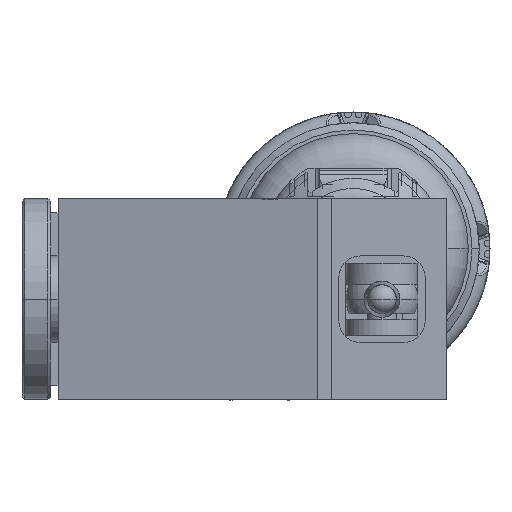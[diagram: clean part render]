
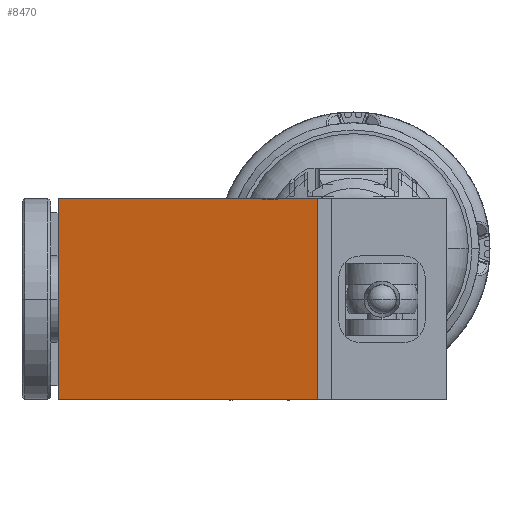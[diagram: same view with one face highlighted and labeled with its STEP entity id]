
A CAD part, left-side view. The second image highlights one B-rep face of the part: STEP entity #8470.
In plain terms, the highlighted planar face has unit normal (-0.976, 0.217, 0).
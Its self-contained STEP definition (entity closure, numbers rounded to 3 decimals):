
#3140=CARTESIAN_POINT('',(4.,27.,-13.));
#3150=VERTEX_POINT('',#3140);
#3180=CARTESIAN_POINT('',(2.832,21.744,-13.));
#3190=DIRECTION('',(-0.217,-0.976,0.));
#3200=VECTOR('',#3190,1.);
#3210=LINE('',#3180,#3200);
#3220=CARTESIAN_POINT('',(0.,9.,-13.));
#3230=VERTEX_POINT('',#3220);
#3240=EDGE_CURVE('',#3150,#3230,#3210,.T.);
#8100=CARTESIAN_POINT('',(4.,27.,1.));
#8110=VERTEX_POINT('',#8100);
#8140=CARTESIAN_POINT('',(4.,27.,0.));
#8150=DIRECTION('',(0.,0.,-1.));
#8160=VECTOR('',#8150,1.);
#8170=LINE('',#8140,#8160);
#8180=EDGE_CURVE('',#8110,#3150,#8170,.T.);
#8240=CARTESIAN_POINT('',(0.,9.,0.));
#8250=DIRECTION('',(0.976,-0.217,0.));
#8260=DIRECTION('',(-0.217,-0.976,0.));
#8270=AXIS2_PLACEMENT_3D('',#8240,#8250,#8260);
#8280=PLANE('',#8270);
#8290=CARTESIAN_POINT('',(2.832,21.744,
1.));
#8300=DIRECTION('',(-0.217,-0.976,0.));
#8310=VECTOR('',#8300,1.);
#8320=LINE('',#8290,#8310);
#8330=CARTESIAN_POINT('',(0.,9.,
1.));
#8340=VERTEX_POINT('',#8330);
#8350=EDGE_CURVE('',#8110,#8340,#8320,.T.);
#8360=ORIENTED_EDGE('',*,*,#8350,.F.);
#8370=CARTESIAN_POINT('',(0.,9.,0.));
#8380=DIRECTION('',(0.,0.,-1.));
#8390=VECTOR('',#8380,1.);
#8400=LINE('',#8370,#8390);
#8410=EDGE_CURVE('',#8340,#3230,#8400,.T.);
#8420=ORIENTED_EDGE('',*,*,#8410,.F.);
#8430=ORIENTED_EDGE('',*,*,#3240,.T.);
#8440=ORIENTED_EDGE('',*,*,#8180,.T.);
#8450=EDGE_LOOP('',(#8440,#8430,#8420,#8360));
#8460=FACE_OUTER_BOUND('',#8450,.T.);
#8470=ADVANCED_FACE('',(#8460),#8280,.F.);
